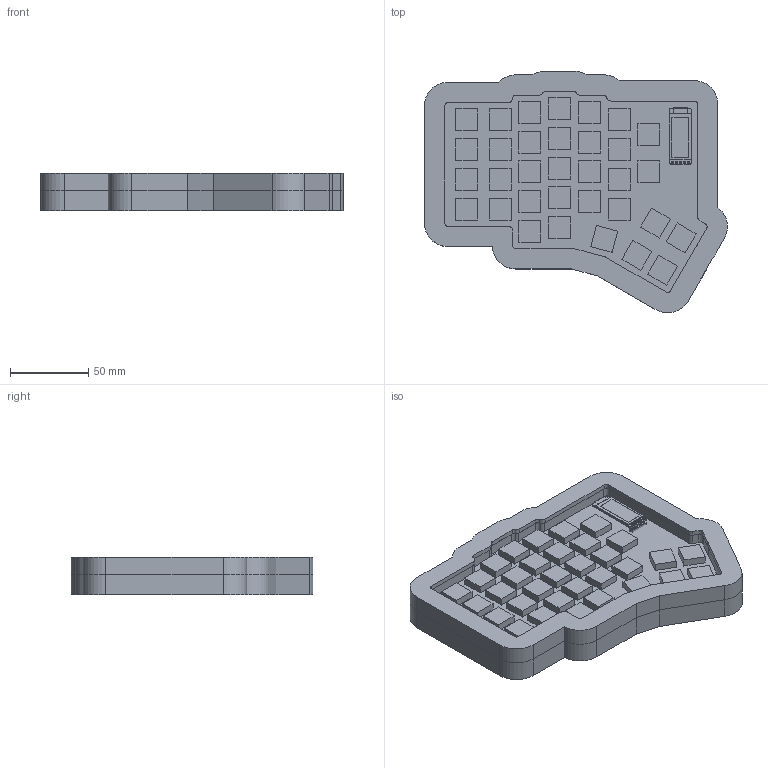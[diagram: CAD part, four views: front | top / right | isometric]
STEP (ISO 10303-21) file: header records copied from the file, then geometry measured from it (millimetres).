
FILE_DESCRIPTION(('Open CASCADE Model'),'2;1');
FILE_NAME('Open CASCADE Shape Model','2026-09-20T05:10:46',('Author'),( 'Open CASCADE'),'Open CASCADE STEP processor 8.0','Open CASCADE 8.0' ,'Unknown');
FILE_SCHEMA(('AP242_MANAGED_MODEL_BASED_3D_ENGINEERING_MIM_LF {1 0 10303 442 1 1 4 }' ));
Length unit declared in the file: millimetre
Products named in the file (38): bhk_bottom; bhk_top; bhk_plate; bhk_pcb; bhk_components_native_matrix_c5_r4; bhk_components_native_matrix_c1_r4; bhk_components_native_matrix_c1_r3; bhk_components_native_matrix_c1_r2; bhk_components_native_matrix_c1_r1; bhk_components_native_matrix_c2_r4; bhk_components_native_matrix_c2_r3; bhk_components_native_matrix_c2_r2; bhk_components_native_matrix_c2_r1; bhk_components_native_matrix_c3_r5; bhk_components_native_matrix_c3_r4; bhk_components_native_matrix_c3_r3; bhk_components_native_matrix_c3_r2; bhk_components_native_matrix_c3_r1; bhk_components_native_matrix_c4_r5; bhk_components_native_matrix_c4_r4; bhk_components_native_matrix_c4_r3; bhk_components_native_matrix_c4_r2; bhk_components_native_matrix_c4_r1; bhk_components_native_matrix_c5_r3; bhk_components_native_matrix_c5_r2; bhk_components_native_matrix_c5_r1; bhk_components_native_matrix_c6_r4; bhk_components_native_matrix_c6_r3; bhk_components_native_matrix_c6_r2; bhk_components_native_matrix_c6_r1; bhk_components_native_matrix_c7_r2; bhk_components_native_matrix_c7_r1; bhk_components_native_thumbfan_c1_r2; bhk_components_native_thumbfan_c2_r2; bhk_components_native_thumbfan_c2_r1; bhk_components_native_thumbfan_c3_r2; bhk_components_native_thumbfan_c3_r1; bhk_components_native_display
Bounding box: 193.41 x 154.41 x 24 mm (x, y, z)
Volume: 324284.7 mm3; surface area: 183610.4 mm2
Topology: 53 solids, 53 shells, 941 faces, 2336 edges, 1524 vertices
Faces by surface type: plane 781, cylinder 160
Full cylindrical faces by diameter (mm): 0.813 x5, 1.397 x10
Entity records: 59203 total; most frequent: CARTESIAN_POINT 10440, DIRECTION 9051, LINE 6368, VECTOR 6368, ORIENTED_EDGE 4672, PCURVE 4672, DEFINITIONAL_REPRESENTATION 4672, EDGE_CURVE 2336
